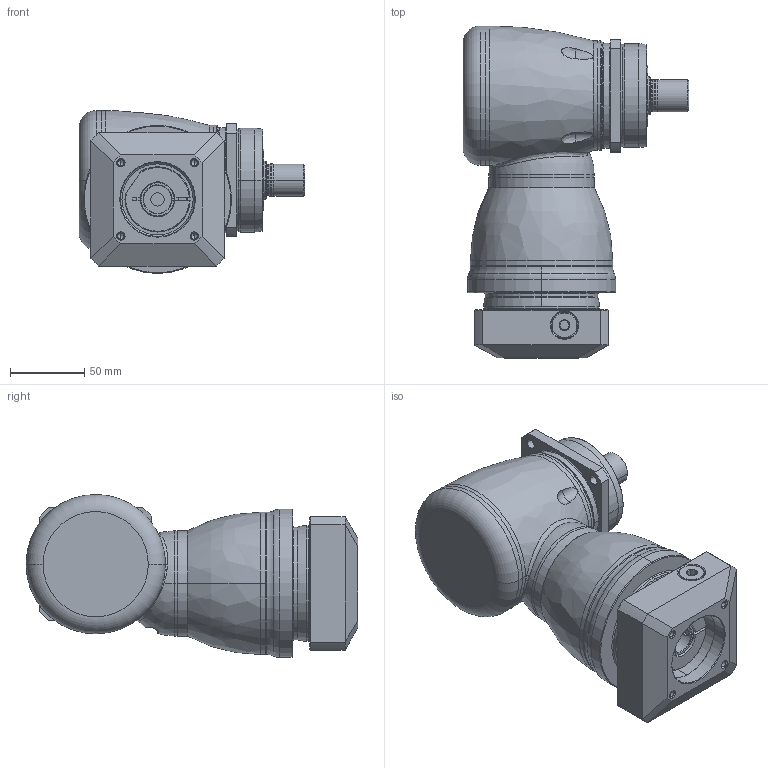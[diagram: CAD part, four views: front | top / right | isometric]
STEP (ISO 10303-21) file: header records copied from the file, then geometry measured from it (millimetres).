
FILE_DESCRIPTION((''),'2;1');
FILE_NAME('KF075_S3_1ST_19-P0409400101_ASM','2016-07-01T',('d01943'),(''),'PRO/ENGINEER BY PARAMETRIC TECHNOLOGY CORPORATION, 2008410','PRO/ENGINEER BY PARAMETRIC TECHNOLOGY CORPORATION, 2008410','');
FILE_SCHEMA(('CONFIG_CONTROL_DESIGN'));
Length unit declared in the file: millimetre
Products named in the file (11): P1008300002; P1804300001; P0915302001; P1315300001; P1007300001; P1318300201; P0409400101; P0503400006; P0912302001; 21711412017; KF075_S3_1ST_19-P0409400101_ASM
Assembly tree (10 placements, depth 2):
  KF075_S3_1ST_19-P0409400101_ASM
    P1008300002
    P1804300001
    P0915302001
    P1315300001
    P1007300001
    P1318300201
    P0409400101
    P0503400006
    P0912302001
    21711412017
Bounding box: 152.5 x 224 x 110 mm (x, y, z)
Volume: 1428780.9 mm3; surface area: 194431.7 mm2
Topology: 11 solids, 11 shells, 451 faces, 1025 edges, 604 vertices
Faces by surface type: cylinder 147, cone 114, plane 85, torus 68, bspline 35, sphere 2
Entity records: 19177 total; most frequent: CARTESIAN_POINT 8964, DIRECTION 2242, ORIENTED_EDGE 1986, EDGE_CURVE 993, AXIS2_PLACEMENT_3D 954, VERTEX_POINT 598, CIRCLE 517, EDGE_LOOP 509
